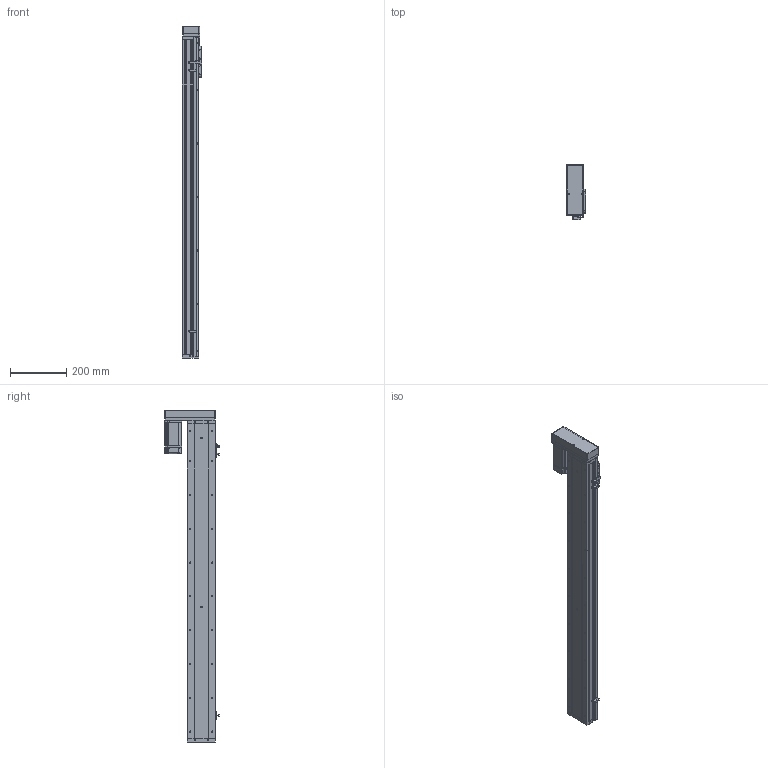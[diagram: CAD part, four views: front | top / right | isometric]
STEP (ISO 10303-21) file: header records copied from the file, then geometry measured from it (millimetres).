
FILE_DESCRIPTION (( 'STEP AP214' ), '1' );
FILE_NAME ('KSD100S-S950-ML-CR 5.STEP', '2019-09-02T08:29:29', ( '微软用户' ), ( '微软中国' ), 'SwSTEP 2.0', 'SolidWorks 2014', '' );
FILE_SCHEMA (( 'AUTOMOTIVE_DESIGN' ));
Length unit declared in the file: millimetre
Products named in the file (14): 100宽马达安装板连板左右折丝杆; U倰嫖萇EEㄜSX672; 感应片100宽全封闭; 100宽马达安装板全封闭; 100宽端板全封闭; 100宽滚珠螺姆安装板1防护罩; 100宽滚珠螺姆安装板1; 100遵裔啣揤啣; 100遵裔啣950俴最; 100遵耜啣950俴最佪裝; 100宽底板全封闭950行程丝杆; KSD100S-S950-ML-CR 5; MHMD042G1CA_2_03; 悵誘欶酘衵殏
Assembly tree (17 placements, depth 2):
  KSD100S-S950-ML-CR 5
    100宽底板全封闭950行程丝杆
    100遵耜啣950俴最佪裝  x2
    100遵裔啣950俴最
    100遵裔啣揤啣  x2
    100宽滚珠螺姆安装板1
    100宽滚珠螺姆安装板1防护罩
    100宽端板全封闭
    100宽马达安装板全封闭
    感应片100宽全封闭
    U倰嫖萇EEㄜSX672  x3
    100宽马达安装板连板左右折丝杆
    悵誘欶酘衵殏
    MHMD042G1CA_2_03
Bounding box: 70 x 193.7 x 1178.5 mm (x, y, z)
Volume: 2340735.3 mm3; surface area: 1045482.2 mm2
Topology: 16 solids, 17 shells, 1761 faces, 4918 edges, 3116 vertices
Faces by surface type: cylinder 771, plane 703, cone 269, bspline 18
Entity records: 59116 total; most frequent: CARTESIAN_POINT 9358, DIRECTION 8409, ORIENTED_EDGE 7752, EDGE_CURVE 3948, AXIS2_PLACEMENT_3D 3031, VERTEX_POINT 2614, VECTOR 2347, LINE 2347
